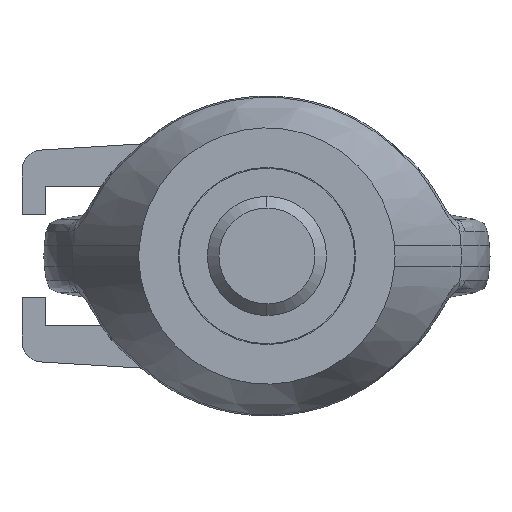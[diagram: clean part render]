
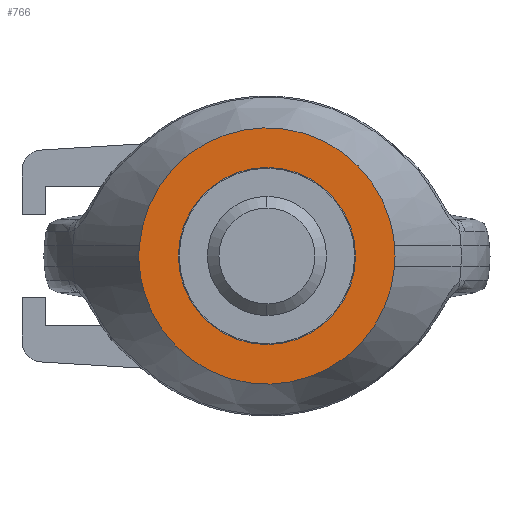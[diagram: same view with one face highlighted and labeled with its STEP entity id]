
A CAD part, front view. The second image highlights one B-rep face of the part: STEP entity #766.
In plain terms, the highlighted planar face has unit normal (0, -1, 0).
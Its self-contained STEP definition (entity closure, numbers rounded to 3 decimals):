
#766=ADVANCED_FACE('',(#1758,#1759),#1760,.F.);
#1758=FACE_OUTER_BOUND('',#14981,.T.);
#1759=FACE_BOUND('',#14982,.T.);
#1760=PLANE('',#14983);
#14981=EDGE_LOOP('',(#18692,#18693,#18694,#18695));
#14982=EDGE_LOOP('',(#18696,#18697));
#14983=AXIS2_PLACEMENT_3D('',#18698,#18699,#18700);
#18692=ORIENTED_EDGE('',*,*,#20834,.F.);
#18693=ORIENTED_EDGE('',*,*,#21218,.T.);
#18694=ORIENTED_EDGE('',*,*,#21027,.F.);
#18695=ORIENTED_EDGE('',*,*,#21219,.T.);
#18696=ORIENTED_EDGE('',*,*,#21220,.F.);
#18697=ORIENTED_EDGE('',*,*,#20569,.F.);
#18698=CARTESIAN_POINT('',(26.75,-68.0,0.0));
#18699=DIRECTION('',(0.,1.0,0.));
#18700=DIRECTION('',(1.0,0.0,0.));
#20569=EDGE_CURVE('',#22023,#22019,#22025,.F.);
#20834=EDGE_CURVE('',#22516,#22518,#22519,.T.);
#21027=EDGE_CURVE('',#22779,#22780,#22781,.T.);
#21218=EDGE_CURVE('',#22516,#22780,#23040,.T.);
#21219=EDGE_CURVE('',#22779,#22518,#23041,.T.);
#21220=EDGE_CURVE('',#22019,#22023,#23042,.F.);
#22019=VERTEX_POINT('',#24121);
#22023=VERTEX_POINT('',#24126);
#22025=CIRCLE('',#24129,26.75);
#22516=VERTEX_POINT('',#26706);
#22518=VERTEX_POINT('',#26750);
#22519=B_SPLINE_CURVE_WITH_KNOTS('',3,(#26751,#26752,#26753,#26754,#26755,#26756,#26757,#26758,#26759,#26760,#26761,#26762,#26763,#26764,#26765,#26766,#26767,#26768,#26769,#26770,#26771,#26772,#26773,#26774,#26775,#26776,#26777,#26778,#26779,#26780,#26781,#26782,#26783,#26784,#26785,#26786,#26787,#26788,#26789,#26790,#26791,#26792,#26793),.UNSPECIFIED.,.F.,.F.,(4,1,1,1,1,1,1,1,1,1,1,1,1,1,1,1,1,1,1,1,1,1,1,1,1,1,1,1,1,1,1,1,1,1,1,1,1,1,1,1,4),(0.021,0.021,0.023,0.025,0.027,0.029,0.031,0.032,0.047,0.062,0.094,0.125,0.156,0.187,0.219,0.25,0.281,0.312,0.375,0.437,0.5,0.562,0.625,0.687,0.719,0.75,0.781,0.812,0.844,0.875,0.906,0.937,0.953,0.968,0.969,0.971,0.973,0.975,0.977,0.979,0.979),.UNSPECIFIED.);
#22779=VERTEX_POINT('',#29982);
#22780=VERTEX_POINT('',#29983);
#22781=B_SPLINE_CURVE_WITH_KNOTS('',3,(#29984,#29985,#29986,#29987,#29988,#29989,#29990,#29991,#29992,#29993,#29994,#29995,#29996,#29997,#29998,#29999,#30000,#30001,#30002,#30003,#30004,#30005,#30006,#30007,#30008,#30009,#30010,#30011,#30012,#30013,#30014,#30015,#30016,#30017,#30018,#30019,#30020,#30021,#30022,#30023,#30024,#30025,#30026),.UNSPECIFIED.,.F.,.F.,(4,1,1,1,1,1,1,1,1,1,1,1,1,1,1,1,1,1,1,1,1,1,1,1,1,1,1,1,1,1,1,1,1,1,1,1,1,1,1,1,4),(0.021,0.021,0.023,0.025,0.027,0.029,0.031,0.032,0.047,0.063,0.094,0.125,0.156,0.188,0.219,0.25,0.281,0.313,0.375,0.438,0.5,0.563,0.625,0.688,0.719,0.75,0.781,0.813,0.844,0.875,0.906,0.938,0.953,0.968,0.969,0.971,0.973,0.975,0.977,0.979,0.979),.UNSPECIFIED.);
#23040=ELLIPSE('',#33078,45.838,40.007);
#23041=ELLIPSE('',#33079,45.838,40.007);
#23042=CIRCLE('',#33080,26.75);
#24121=CARTESIAN_POINT('',(-26.75,-68.0,0.0));
#24126=CARTESIAN_POINT('',(26.75,-68.0,0.));
#24129=AXIS2_PLACEMENT_3D('',#35036,#35037,#35038);
#26706=CARTESIAN_POINT('',(-38.551,-68.,3.055));
#26750=CARTESIAN_POINT('',(38.551,-68.,3.055));
#26751=CARTESIAN_POINT('',(-38.551,-68.,3.055));
#26752=CARTESIAN_POINT('',(-38.551,-68.,3.059));
#26753=CARTESIAN_POINT('',(-38.542,-68.,3.157));
#26754=CARTESIAN_POINT('',(-38.526,-68.,3.344));
#26755=CARTESIAN_POINT('',(-38.503,-68.,3.6));
#26756=CARTESIAN_POINT('',(-38.482,-68.,3.821));
#26757=CARTESIAN_POINT('',(-38.458,-68.,4.056));
#26758=CARTESIAN_POINT('',(-38.437,-68.,4.252));
#26759=CARTESIAN_POINT('',(-38.358,-68.,4.957));
#26760=CARTESIAN_POINT('',(-38.189,-68.,6.196));
#26761=CARTESIAN_POINT('',(-37.74,-68.,8.624));
#26762=CARTESIAN_POINT('',(-36.946,-68.,11.66));
#26763=CARTESIAN_POINT('',(-35.643,-68.,15.194));
#26764=CARTESIAN_POINT('',(-34.003,-68.,18.585));
#26765=CARTESIAN_POINT('',(-32.041,-68.,21.801));
#26766=CARTESIAN_POINT('',(-29.775,-68.,24.811));
#26767=CARTESIAN_POINT('',(-27.227,-68.,27.588));
#26768=CARTESIAN_POINT('',(-24.42,-68.,30.105));
#26769=CARTESIAN_POINT('',(-20.368,-68.,33.082));
#26770=CARTESIAN_POINT('',(-14.793,-68.,36.037));
#26771=CARTESIAN_POINT('',(-7.54,-68.0,38.221));
#26772=CARTESIAN_POINT('',(0.,-68.,38.959));
#26773=CARTESIAN_POINT('',(7.54,-68.,38.221));
#26774=CARTESIAN_POINT('',(14.793,-68.,36.037));
#26775=CARTESIAN_POINT('',(20.368,-68.,33.082));
#26776=CARTESIAN_POINT('',(24.42,-68.,30.105));
#26777=CARTESIAN_POINT('',(27.227,-68.,27.588));
#26778=CARTESIAN_POINT('',(29.775,-68.,24.811));
#26779=CARTESIAN_POINT('',(32.041,-68.,21.801));
#26780=CARTESIAN_POINT('',(34.003,-68.,18.585));
#26781=CARTESIAN_POINT('',(35.643,-68.,15.194));
#26782=CARTESIAN_POINT('',(36.946,-68.,11.66));
#26783=CARTESIAN_POINT('',(37.74,-68.,8.624));
#26784=CARTESIAN_POINT('',(38.189,-68.,6.196));
#26785=CARTESIAN_POINT('',(38.358,-68.,4.957));
#26786=CARTESIAN_POINT('',(38.437,-68.,4.252));
#26787=CARTESIAN_POINT('',(38.458,-68.,4.056));
#26788=CARTESIAN_POINT('',(38.482,-68.,3.821));
#26789=CARTESIAN_POINT('',(38.503,-68.,3.6));
#26790=CARTESIAN_POINT('',(38.526,-68.,3.344));
#26791=CARTESIAN_POINT('',(38.542,-68.,3.157));
#26792=CARTESIAN_POINT('',(38.551,-68.,3.059));
#26793=CARTESIAN_POINT('',(38.551,-68.,3.055));
#29982=CARTESIAN_POINT('',(38.551,-68.,-3.055));
#29983=CARTESIAN_POINT('',(-38.551,-68.,-3.055));
#29984=CARTESIAN_POINT('',(38.551,-68.0,-3.055));
#29985=CARTESIAN_POINT('',(38.551,-68.0,-3.059));
#29986=CARTESIAN_POINT('',(38.542,-68.0,-3.157));
#29987=CARTESIAN_POINT('',(38.526,-68.0,-3.344));
#29988=CARTESIAN_POINT('',(38.503,-68.0,-3.6));
#29989=CARTESIAN_POINT('',(38.482,-68.0,-3.821));
#29990=CARTESIAN_POINT('',(38.458,-68.0,-4.056));
#29991=CARTESIAN_POINT('',(38.437,-68.0,-4.252));
#29992=CARTESIAN_POINT('',(38.358,-68.0,-4.957));
#29993=CARTESIAN_POINT('',(38.189,-68.0,-6.196));
#29994=CARTESIAN_POINT('',(37.74,-68.0,-8.624));
#29995=CARTESIAN_POINT('',(36.946,-68.0,-11.66));
#29996=CARTESIAN_POINT('',(35.643,-68.,-15.194));
#29997=CARTESIAN_POINT('',(34.003,-68.0,-18.585));
#29998=CARTESIAN_POINT('',(32.041,-68.,-21.801));
#29999=CARTESIAN_POINT('',(29.775,-68.,-24.811));
#30000=CARTESIAN_POINT('',(27.227,-68.,-27.588));
#30001=CARTESIAN_POINT('',(24.42,-68.,-30.105));
#30002=CARTESIAN_POINT('',(20.368,-68.,-33.082));
#30003=CARTESIAN_POINT('',(14.793,-68.,-36.037));
#30004=CARTESIAN_POINT('',(7.54,-68.,-38.221));
#30005=CARTESIAN_POINT('',(0.,-68.,-38.959));
#30006=CARTESIAN_POINT('',(-7.54,-68.,-38.221));
#30007=CARTESIAN_POINT('',(-14.793,-68.,-36.037));
#30008=CARTESIAN_POINT('',(-20.368,-68.,-33.082));
#30009=CARTESIAN_POINT('',(-24.42,-68.,-30.105));
#30010=CARTESIAN_POINT('',(-27.227,-68.,-27.588));
#30011=CARTESIAN_POINT('',(-29.775,-68.,-24.811));
#30012=CARTESIAN_POINT('',(-32.041,-68.,-21.801));
#30013=CARTESIAN_POINT('',(-34.003,-68.,-18.585));
#30014=CARTESIAN_POINT('',(-35.643,-68.,-15.194));
#30015=CARTESIAN_POINT('',(-36.946,-68.,-11.66));
#30016=CARTESIAN_POINT('',(-37.74,-68.,-8.624));
#30017=CARTESIAN_POINT('',(-38.189,-68.0,-6.196));
#30018=CARTESIAN_POINT('',(-38.358,-68.0,-4.957));
#30019=CARTESIAN_POINT('',(-38.437,-68.0,-4.252));
#30020=CARTESIAN_POINT('',(-38.458,-68.0,-4.056));
#30021=CARTESIAN_POINT('',(-38.482,-68.0,-3.821));
#30022=CARTESIAN_POINT('',(-38.503,-68.0,-3.6));
#30023=CARTESIAN_POINT('',(-38.526,-68.0,-3.344));
#30024=CARTESIAN_POINT('',(-38.542,-68.0,-3.157));
#30025=CARTESIAN_POINT('',(-38.551,-68.0,-3.059));
#30026=CARTESIAN_POINT('',(-38.551,-68.0,-3.055));
#33078=AXIS2_PLACEMENT_3D('',#35612,#35613,#35614);
#33079=AXIS2_PLACEMENT_3D('',#35615,#35616,#35617);
#33080=AXIS2_PLACEMENT_3D('',#35618,#35619,#35620);
#35036=CARTESIAN_POINT('',(0.,-68.0,0.0));
#35037=DIRECTION('',(0.,1.0,0.0));
#35038=DIRECTION('',(-1.0,0.,0.0));
#35612=CARTESIAN_POINT('',(7.153,-68.0,0.));
#35613=DIRECTION('',(0.0,-1.0,0.0));
#35614=DIRECTION('',(1.0,0.0,0.));
#35615=CARTESIAN_POINT('',(-7.153,-68.0,0.));
#35616=DIRECTION('',(0.0,-1.0,0.0));
#35617=DIRECTION('',(1.0,0.0,0.));
#35618=CARTESIAN_POINT('',(0.,-68.0,0.0));
#35619=DIRECTION('',(0.,1.0,0.0));
#35620=DIRECTION('',(-1.0,0.,0.0));
